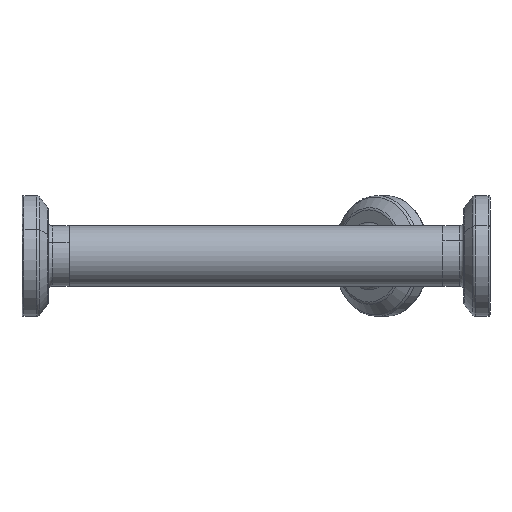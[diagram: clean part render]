
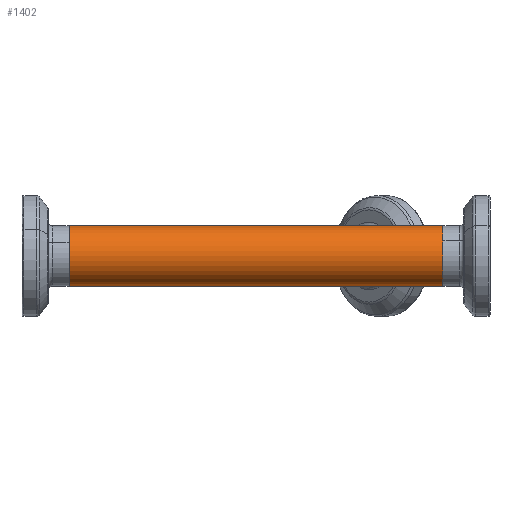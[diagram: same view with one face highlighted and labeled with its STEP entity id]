
A CAD part, front view. The second image highlights one B-rep face of the part: STEP entity #1402.
In plain terms, the highlighted cylindrical face has radius 12.7 mm (diameter 25.4 mm), a partial arc.
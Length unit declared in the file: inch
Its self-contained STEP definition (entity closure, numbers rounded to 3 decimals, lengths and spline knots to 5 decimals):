
#18 = VECTOR ( 'NONE', #868, 39.37008 ) ;
#44 = EDGE_CURVE ( 'NONE', #856, #725, #1368, .T. ) ;
#46 = EDGE_LOOP ( 'NONE', ( #308, #1211, #752, #617, #137, #863 ) ) ;
#137 = ORIENTED_EDGE ( 'NONE', *, *, #561, .F. ) ;
#220 = CARTESIAN_POINT ( 'NONE',  ( -1.187, 0., 0.5 ) ) ;
#254 = AXIS2_PLACEMENT_3D ( 'NONE', #690, #1249, #577 ) ;
#285 = EDGE_CURVE ( 'NONE', #830, #871, #1276, .T. ) ;
#287 = CARTESIAN_POINT ( 'NONE',  ( -1.187, 0., -0.5 ) ) ;
#307 = DIRECTION ( 'NONE',  ( 0., 0., -1. ) ) ;
#308 = ORIENTED_EDGE ( 'NONE', *, *, #512, .F. ) ;
#339 = DIRECTION ( 'NONE',  ( 1., 0., 0. ) ) ;
#395 = AXIS2_PLACEMENT_3D ( 'NONE', #1358, #339, #813 ) ;
#512 = EDGE_CURVE ( 'NONE', #735, #856, #1082, .T. ) ;
#520 = LINE ( 'NONE', #287, #671 ) ;
#561 = EDGE_CURVE ( 'NONE', #725, #871, #761, .T. ) ;
#577 = DIRECTION ( 'NONE',  ( 0., 0., -1. ) ) ;
#617 = ORIENTED_EDGE ( 'NONE', *, *, #285, .T. ) ;
#671 = VECTOR ( 'NONE', #1312, 39.37008 ) ;
#690 = CARTESIAN_POINT ( 'NONE',  ( 5., 0., 0. ) ) ;
#702 = CARTESIAN_POINT ( 'NONE',  ( 0., 0., 0.5 ) ) ;
#706 = EDGE_CURVE ( 'NONE', #735, #1301, #1115, .T. ) ;
#725 = VERTEX_POINT ( 'NONE', #1362 ) ;
#735 = VERTEX_POINT ( 'NONE', #220 ) ;
#752 = ORIENTED_EDGE ( 'NONE', *, *, #1150, .T. ) ;
#761 = CIRCLE ( 'NONE', #254, 0.5 ) ;
#813 = DIRECTION ( 'NONE',  ( 0., 0., -1. ) ) ;
#830 = VERTEX_POINT ( 'NONE', #1247 ) ;
#856 = VERTEX_POINT ( 'NONE', #702 ) ;
#863 = ORIENTED_EDGE ( 'NONE', *, *, #44, .F. ) ;
#868 = DIRECTION ( 'NONE',  ( 1., 0., 0. ) ) ;
#871 = VERTEX_POINT ( 'NONE', #1450 ) ;
#894 = FACE_OUTER_BOUND ( 'NONE', #46, .T. ) ;
#1021 = DIRECTION ( 'NONE',  ( 1., 0., 0. ) ) ;
#1064 = CARTESIAN_POINT ( 'NONE',  ( -1.187, 0., -0.5 ) ) ;
#1082 = LINE ( 'NONE', #1118, #18 ) ;
#1115 = CIRCLE ( 'NONE', #395, 0.5 ) ;
#1118 = CARTESIAN_POINT ( 'NONE',  ( -1.187, 0., 0.5 ) ) ;
#1128 = CYLINDRICAL_SURFACE ( 'NONE', #1198, 0.5 ) ;
#1150 = EDGE_CURVE ( 'NONE', #1301, #830, #520, .T. ) ;
#1156 = DIRECTION ( 'NONE',  ( 1., 0., 0. ) ) ;
#1169 = VECTOR ( 'NONE', #1261, 39.37008 ) ;
#1198 = AXIS2_PLACEMENT_3D ( 'NONE', #1235, #1021, #307 ) ;
#1211 = ORIENTED_EDGE ( 'NONE', *, *, #706, .T. ) ;
#1235 = CARTESIAN_POINT ( 'NONE',  ( -1.187, 0., 0. ) ) ;
#1247 = CARTESIAN_POINT ( 'NONE',  ( 0., 0., -0.5 ) ) ;
#1249 = DIRECTION ( 'NONE',  ( 1., 0., 0. ) ) ;
#1256 = CARTESIAN_POINT ( 'NONE',  ( -1.187, 0., 0.5 ) ) ;
#1261 = DIRECTION ( 'NONE',  ( 1., 0., 0. ) ) ;
#1276 = LINE ( 'NONE', #1064, #1169 ) ;
#1301 = VERTEX_POINT ( 'NONE', #1335 ) ;
#1312 = DIRECTION ( 'NONE',  ( 1., 0., 0. ) ) ;
#1335 = CARTESIAN_POINT ( 'NONE',  ( -1.187, 0., -0.5 ) ) ;
#1358 = CARTESIAN_POINT ( 'NONE',  ( -1.187, 0., 0. ) ) ;
#1362 = CARTESIAN_POINT ( 'NONE',  ( 5., 0., 0.5 ) ) ;
#1368 = LINE ( 'NONE', #1256, #1468 ) ;
#1402 = ADVANCED_FACE ( 'NONE', ( #894 ), #1128, .T. ) ;
#1450 = CARTESIAN_POINT ( 'NONE',  ( 5., 0., -0.5 ) ) ;
#1468 = VECTOR ( 'NONE', #1156, 39.37008 ) ;
